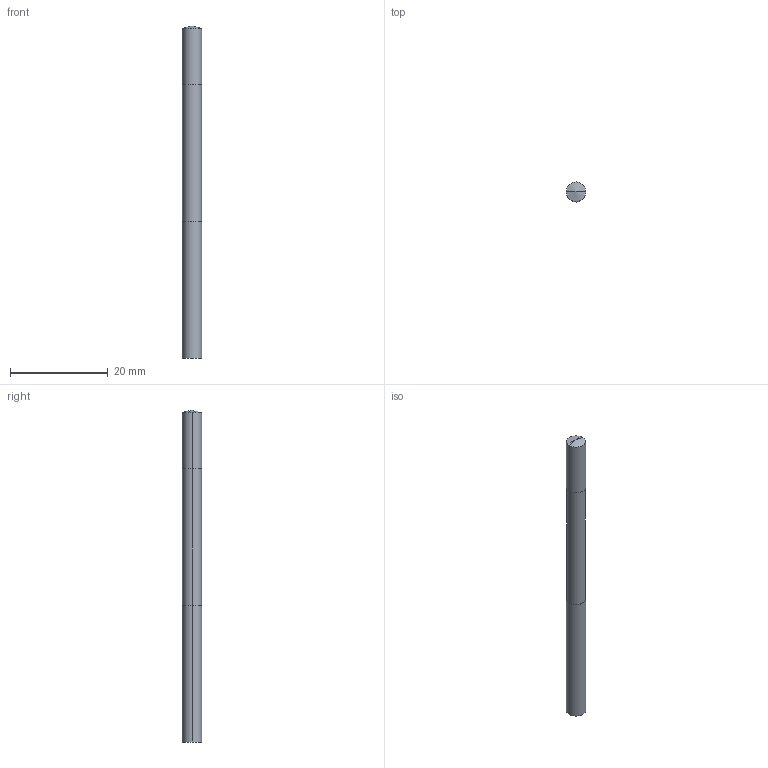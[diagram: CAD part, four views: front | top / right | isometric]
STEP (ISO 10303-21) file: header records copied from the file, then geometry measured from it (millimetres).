
FILE_DESCRIPTION(('STEP AP214'),'1');
FILE_NAME('cctmp_3DFAE888-7A0F-411F-994A-4FD6AE0FB941_2020_10_01_10_12_29_0500..stp','2020-10-01T08:12:29',('Meusburger Georg GmbH & Co KG'),('CADClick - www.CADClick.com'),'Spatial InterOp 3D',' ','unknown authorization');
FILE_SCHEMA(('AUTOMOTIVE_DESIGN { 1 0 10303 214 1 1 1 1 }'));
Length unit declared in the file: millimetre
Products named in the file (1): WZR 102522_4.01
Bounding box: 4.01 x 4.01 x 68 mm (x, y, z)
Volume: 833.7 mm3; surface area: 866.7 mm2
Topology: 1 solids, 1 shells, 11 faces, 22 edges, 13 vertices
Faces by surface type: cylinder 6, plane 3, cone 2
Entity records: 390 total; most frequent: DIRECTION 56, CARTESIAN_POINT 45, ORIENTED_EDGE 40, AXIS2_PLACEMENT_3D 24, EDGE_CURVE 20, EDGE_LOOP 13, VERTEX_POINT 13, STYLED_ITEM 12
